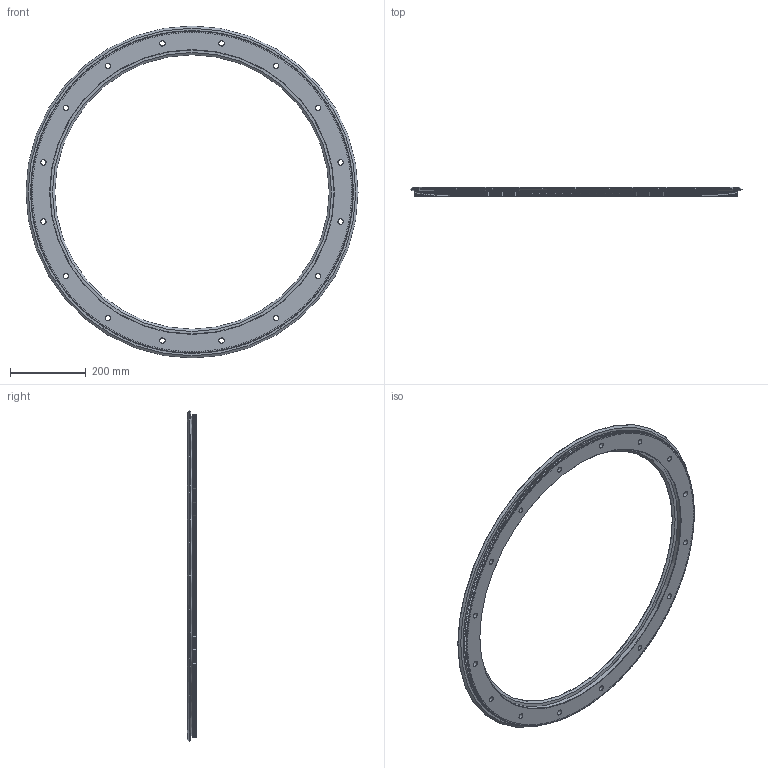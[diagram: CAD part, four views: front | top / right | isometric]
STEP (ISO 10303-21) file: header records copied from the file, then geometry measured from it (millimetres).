
FILE_DESCRIPTION( ( 'STEP AP203' ), '1' );
FILE_NAME( 'p:/temp/worker_35/temp/exporttempdir_2496_418_0K8Os/format_0/R76 799 R360 P.stp', '2021-07-19T05:42:07', ( 'License CC BY-ND 4.0' ), ( 'CADENAS' ), ' ', 'PARTsolutions', ' ' );
FILE_SCHEMA( ( 'CONFIG_CONTROL_DESIGN' ) );
Length unit declared in the file: millimetre
Products named in the file (1): _R76 799 R360 P
Bounding box: 874.87 x 24 x 874.87 mm (x, y, z)
Volume: 3292612.5 mm3; surface area: 556457.3 mm2
Topology: 1 solids, 1 shells, 3461 faces, 9173 edges, 5733 vertices
Faces by surface type: plane 2275, cylinder 599, cone 585, torus 2
Full cylindrical faces by diameter (mm): 14 x16, 20 x16, 748.5 x1, 755.5 x1, 841.9 x1
Entity records: 107268 total; most frequent: CARTESIAN_POINT 21693, ORIENTED_EDGE 18228, DIRECTION 17822, EDGE_CURVE 9114, AXIS2_PLACEMENT_3D 6374, VERTEX_POINT 5733, LINE 5074, VECTOR 5074
